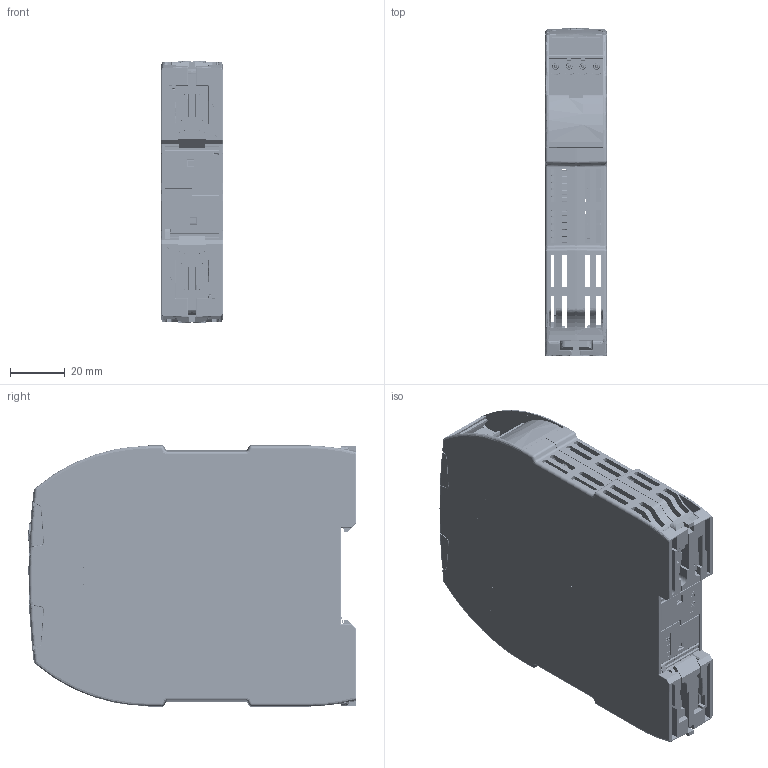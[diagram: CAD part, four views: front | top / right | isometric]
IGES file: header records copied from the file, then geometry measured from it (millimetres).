
Start section:  PTC IGES file: 2037936
Global section: file name: 2037936; native system: Creo Parametric by PTC Inc.; preprocessor: 2019292; author: s.mayer; organization: Unknown; date: 20250709.074805; units: millimetre
Bounding box: 22.5 x 120.35 x 96 mm (x, y, z)
Surface area: 100630.3 mm2 (no closed solid volume)
Topology: 0 solids, 0 shells, 10940 faces, 60240 edges, 60220 vertices
Faces by surface type: bspline 7897, revolution 2757, extrusion 286
